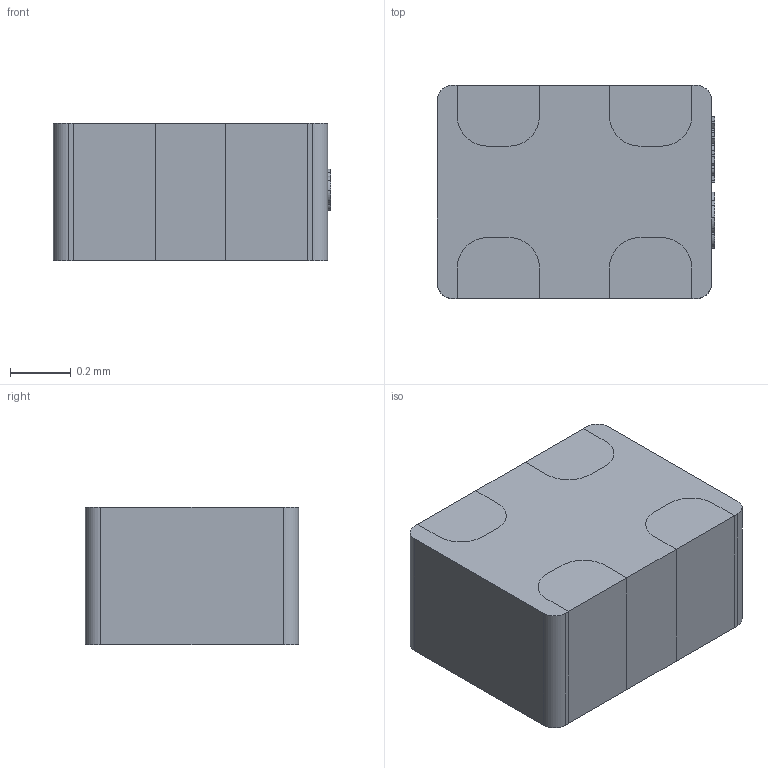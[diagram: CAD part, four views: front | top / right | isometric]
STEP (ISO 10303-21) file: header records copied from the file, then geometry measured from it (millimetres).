
FILE_DESCRIPTION(('Designed by EasyEDA Pro'),'2;1');
FILE_NAME('Open CASCADE Shape Model','2025-04-18T08:50:58',('Author'),( 'Open CASCADE'),'Open CASCADE STEP processor 7.6','Open CASCADE 7.8' ,'Unknown');
FILE_SCHEMA(('AUTOMOTIVE_DESIGN_CC2 { 1 2 10303 214 -1 1 5 4 }'));
Length unit declared in the file: millimetre
Products named in the file (4): PCBModel; pS8p-L1; FILTER-SMD_4P-L0.9-W0.7-P0.50-BL-CW; COMPOUND
Assembly tree (3 placements, depth 4):
  PCBModel
    pS8p-L1
      FILTER-SMD_4P-L0.9-W0.7-P0.50-BL-CW
        COMPOUND
Bounding box: 0.91 x 0.7 x 0.45 mm (x, y, z)
Volume: 0.3 mm3; surface area: 4.8 mm2
Topology: 5 solids, 5 shells, 349 faces, 939 edges, 626 vertices
Faces by surface type: plane 217, bspline 112, cylinder 20
Entity records: 15340 total; most frequent: CARTESIAN_POINT 4022, ORIENTED_EDGE 1878, DIRECTION 1233, EDGE_CURVE 939, LINE 671, VECTOR 671, VERTEX_POINT 626, FACE_BOUND 375
